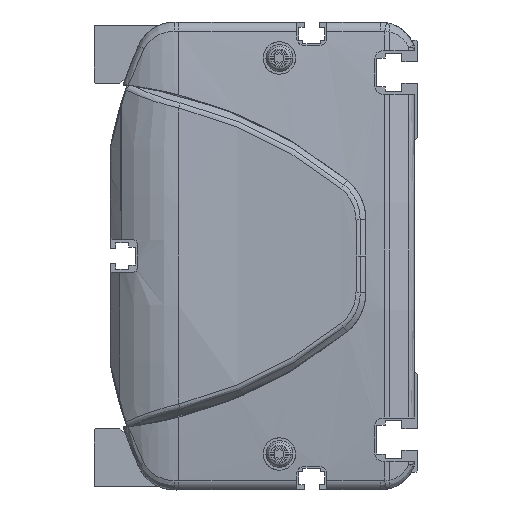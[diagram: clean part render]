
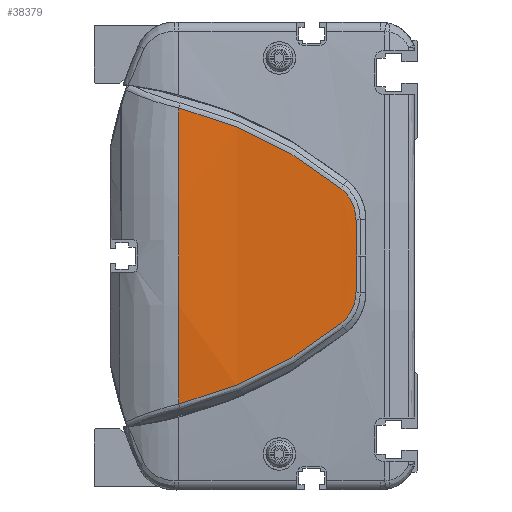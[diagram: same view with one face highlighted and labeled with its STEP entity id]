
A CAD part, left-side view. The second image highlights one B-rep face of the part: STEP entity #38379.
In plain terms, the highlighted cylindrical face has radius 500 mm (diameter 1000 mm), a partial arc.
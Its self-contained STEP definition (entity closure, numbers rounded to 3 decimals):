
#34631=CARTESIAN_POINT('',(486.,66.362,0.));
#34632=DIRECTION('',(0.,-1.,0.));
#34633=DIRECTION('',(-0.997,0.,0.082));
#34634=AXIS2_PLACEMENT_3D('',#34631,#34632,#34633);
#35514=CARTESIAN_POINT('',(-13.648,21.313,
-18.759));
#35515=CARTESIAN_POINT('',(-13.449,27.904,
-24.058));
#35516=CARTESIAN_POINT('',(-12.934,42.195,
-33.27));
#35517=CARTESIAN_POINT('',(-12.471,58.156,
-39.127));
#35518=CARTESIAN_POINT('',(-12.306,66.362,
-41.121));
#35520=CARTESIAN_POINT('',(-12.306,66.362,
41.121));
#35521=CARTESIAN_POINT('',(-12.471,58.156,
39.127));
#35522=CARTESIAN_POINT('',(-12.934,42.195,
33.27));
#35523=CARTESIAN_POINT('',(-13.449,27.904,
24.058));
#35524=CARTESIAN_POINT('',(-13.648,21.313,
18.759));
#35526=CARTESIAN_POINT('',(-13.648,21.313,
18.759));
#35527=CARTESIAN_POINT('',(-13.686,20.035,
17.736));
#35528=CARTESIAN_POINT('',(-13.779,17.936,
15.107));
#35529=CARTESIAN_POINT('',(-13.863,17.152,
11.827));
#35530=CARTESIAN_POINT('',(-13.896,17.124,
10.178));
#35532=CARTESIAN_POINT('',(-13.896,17.124,
10.178));
#35533=CARTESIAN_POINT('',(-13.92,17.107,
9.026));
#35534=CARTESIAN_POINT('',(-13.959,17.067,
6.735));
#35535=CARTESIAN_POINT('',(-13.993,16.98,
3.341));
#35536=CARTESIAN_POINT('',(-14.,16.898,
1.109));
#35537=CARTESIAN_POINT('',(-14.,16.849,
0.));
#35539=CARTESIAN_POINT('',(-14.,16.849,
0.));
#35540=CARTESIAN_POINT('',(-14.,16.898,
-1.109));
#35541=CARTESIAN_POINT('',(-13.993,16.98,
-3.341));
#35542=CARTESIAN_POINT('',(-13.959,17.067,
-6.734));
#35543=CARTESIAN_POINT('',(-13.92,17.107,
-9.028));
#35544=CARTESIAN_POINT('',(-13.896,17.124,
-10.18));
#35546=CARTESIAN_POINT('',(-13.896,17.124,
-10.18));
#35547=CARTESIAN_POINT('',(-13.863,17.152,
-11.828));
#35548=CARTESIAN_POINT('',(-13.779,17.937,
-15.109));
#35549=CARTESIAN_POINT('',(-13.686,20.035,
-17.736));
#35550=CARTESIAN_POINT('',(-13.648,21.313,
-18.759));
#36201=VERTEX_POINT('',#35514);
#36202=VERTEX_POINT('',#35518);
#36203=CARTESIAN_POINT('',(-12.306,66.362,
41.121));
#36204=VERTEX_POINT('',#36203);
#36205=VERTEX_POINT('',#35524);
#36206=VERTEX_POINT('',#35530);
#36207=VERTEX_POINT('',#35537);
#36208=VERTEX_POINT('',#35544);
#38360=CARTESIAN_POINT('',(486.,8.006,0.));
#38361=DIRECTION('',(0.,1.,0.));
#38362=DIRECTION('',(1.,0.,0.));
#38363=AXIS2_PLACEMENT_3D('',#38360,#38361,#38362);
#38364=CYLINDRICAL_SURFACE('',#38363,500.);
#38366=ORIENTED_EDGE('',*,*,#38365,.T.);
#38367=ORIENTED_EDGE('',*,*,#37003,.F.);
#38369=ORIENTED_EDGE('',*,*,#38368,.T.);
#38371=ORIENTED_EDGE('',*,*,#38370,.T.);
#38373=ORIENTED_EDGE('',*,*,#38372,.T.);
#38375=ORIENTED_EDGE('',*,*,#38374,.T.);
#38376=ORIENTED_EDGE('',*,*,#38350,.T.);
#38377=EDGE_LOOP('',(#38366,#38367,#38369,#38371,#38373,#38375,#38376));
#38378=FACE_OUTER_BOUND('',#38377,.F.);
#38379=ADVANCED_FACE('',(#38378),#38364,.T.);
#34635=CIRCLE('',#34634,500.);
#35519=B_SPLINE_CURVE_WITH_KNOTS('',3,(#35514,#35515,#35516,#35517,#35518),
.UNSPECIFIED.,.F.,.F.,(4,1,4),(0.,0.5,1.),.UNSPECIFIED.);
#35525=B_SPLINE_CURVE_WITH_KNOTS('',3,(#35520,#35521,#35522,#35523,#35524),
.UNSPECIFIED.,.F.,.F.,(4,1,4),(0.,0.5,1.),.UNSPECIFIED.);
#35531=B_SPLINE_CURVE_WITH_KNOTS('',3,(#35526,#35527,#35528,#35529,#35530),
.UNSPECIFIED.,.F.,.F.,(4,1,4),(0.,0.5,1.),.UNSPECIFIED.);
#35538=B_SPLINE_CURVE_WITH_KNOTS('',3,(#35532,#35533,#35534,#35535,#35536,
#35537),.UNSPECIFIED.,.F.,.F.,(4,1,1,4),(0.,0.333,
0.667,1.),.UNSPECIFIED.);
#35545=B_SPLINE_CURVE_WITH_KNOTS('',3,(#35539,#35540,#35541,#35542,#35543,
#35544),.UNSPECIFIED.,.F.,.F.,(4,1,1,4),(0.,0.333,
0.667,1.),.UNSPECIFIED.);
#35551=B_SPLINE_CURVE_WITH_KNOTS('',3,(#35546,#35547,#35548,#35549,#35550),
.UNSPECIFIED.,.F.,.F.,(4,1,4),(0.,0.5,1.),.UNSPECIFIED.);
#37003=EDGE_CURVE('',#36204,#36202,#34635,.T.);
#38350=EDGE_CURVE('',#36208,#36201,#35551,.T.);
#38365=EDGE_CURVE('',#36201,#36202,#35519,.T.);
#38368=EDGE_CURVE('',#36204,#36205,#35525,.T.);
#38370=EDGE_CURVE('',#36205,#36206,#35531,.T.);
#38372=EDGE_CURVE('',#36206,#36207,#35538,.T.);
#38374=EDGE_CURVE('',#36207,#36208,#35545,.T.);
